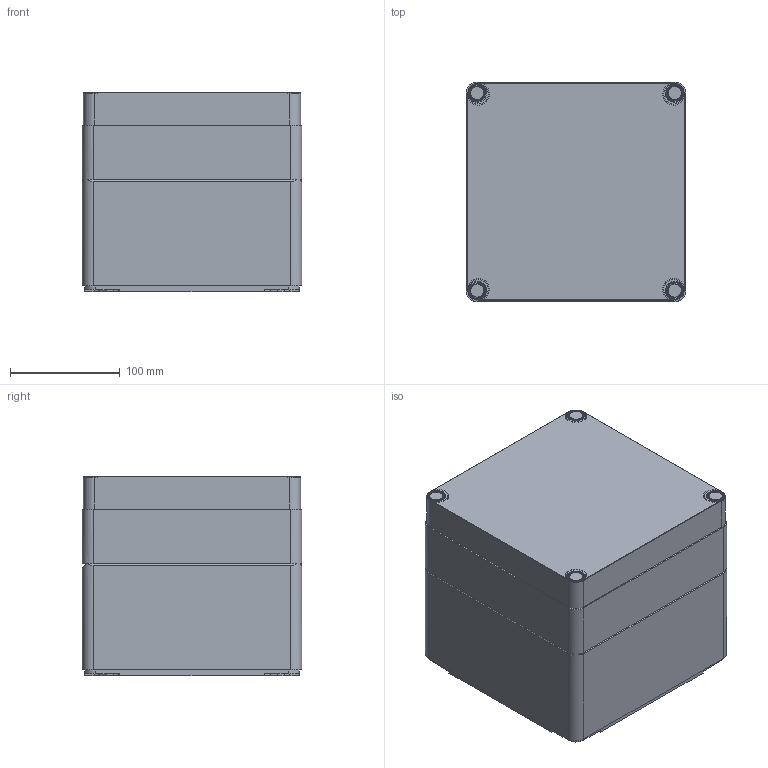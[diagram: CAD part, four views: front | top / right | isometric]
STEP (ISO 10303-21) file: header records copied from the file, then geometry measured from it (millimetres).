
FILE_DESCRIPTION((''),'1');
FILE_NAME('43','2001-04-17T',('jlue'),(''),'PRO/ENGINEER BY PARAMETRIC TECHNOLOGY CORPORATION, 9846','PRO/ENGINEER BY PARAMETRIC TECHNOLOGY CORPORATION, 9846','');
FILE_SCHEMA(('CONFIG_CONTROL_DESIGN'));
Length unit declared in the file: millimetre
Products named in the file (1): 43
Bounding box: 200 x 200 x 182 mm (x, y, z)
Surface area: 448459.4 mm2 (no closed solid volume)
Topology: 0 solids, 0 shells, 399 faces, 2012 edges, 2068 vertices
Faces by surface type: plane 195, cylinder 184, torus 20
Entity records: 10418 total; most frequent: DIRECTION 2226, COMPOSITE_CURVE_SEGMENT 1896, CARTESIAN_POINT 1529, TRIMMED_CURVE 1016, AXIS2_PLACEMENT_3D 811, VECTOR 604, LINE 604, CIRCLE 412
